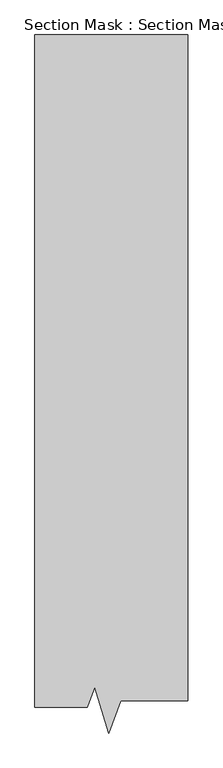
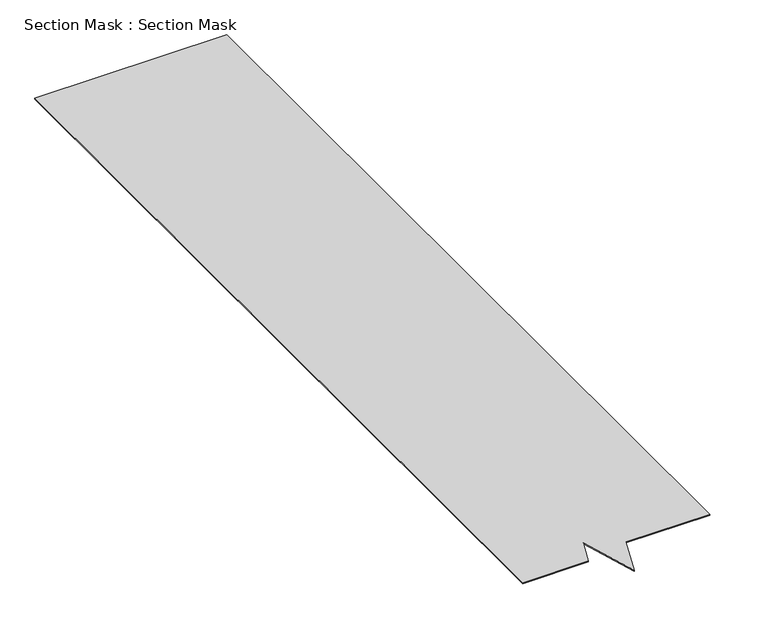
"""IFC4 building model written with IfcOpenShell, lengths in millimetres: proxy geometry, Section Mask : Section Mask."""

from ifc_helpers import new_model, si_unit, frame, origin, place, context, project, spatial, polyline, outline, extrude, source, transform, mapped, element, save


def section_mask_section_mask_8323a9d6(model_context):
    return source(origin(), model_context, "Body", "SweptSolid", [
        extrude(outline(polyline([(480.280417, -301.0796171), (320.4004713, -301.0796171), (320.4004713, 1754.1332024), (787.0844177, 1754.1332024), (787.0844177, -280.2311456), (582.9143176, -280.2311456), (546.2974609, -379.3939873), (503.2973565, -238.7469831), (480.280417, -301.0796171)])), frame((0.0, 0.0, 51.3773345), z_axis=(0.0, 0.0, 1.0), x_axis=(1.0, 0.0, 0.0)), (0.0, 0.0, 1.0), 2.5976655),
    ])


if __name__ == "__main__":
    model = new_model("IFC4")
    model_context = context("Model", 3, world=origin())
    ifc_project = project(units=[si_unit("LENGTHUNIT", "METRE", prefix="MILLI")], contexts=[model_context])
    site = spatial("IfcSite", under=ifc_project)
    building = spatial("IfcBuilding", under=site)
    placement = place(None, origin())
    section_mask_section_mask_shape = section_mask_section_mask_8323a9d6(model_context)
    element("IfcBuildingElementProxy", 1, Name="Section Mask : Section Mask", ObjectType="Section Mask : Section Mask", at=placement, inside=building, context=model_context, shape_type="MappedRepresentation", body=[
        mapped(section_mask_section_mask_shape, transform((0.0, 0.0, 0.0), x_axis=(1.0, 0.0, 0.0), y_axis=(0.0, 1.0, 0.0), z_axis=(0.0, 0.0, 1.0))),
    ])
    save(model, "model.ifc")
